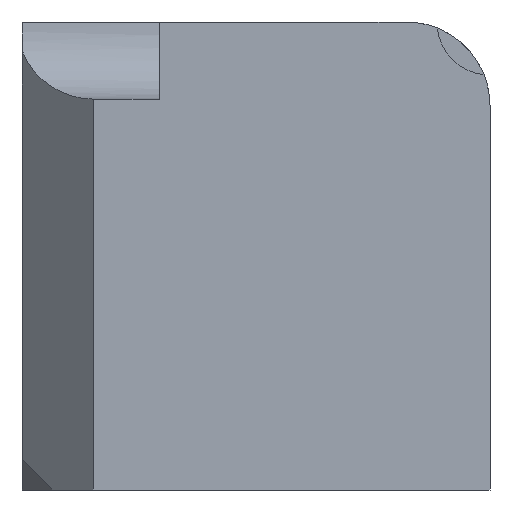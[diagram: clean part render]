
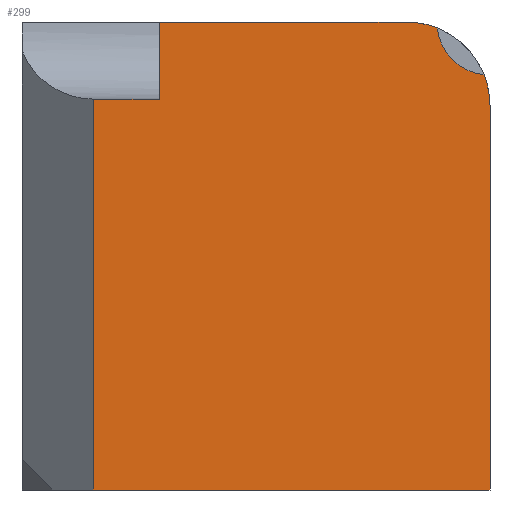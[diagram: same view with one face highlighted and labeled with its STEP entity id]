
A CAD part, left-side view. The second image highlights one B-rep face of the part: STEP entity #299.
In plain terms, the highlighted planar face has unit normal (-1, 0, 0).
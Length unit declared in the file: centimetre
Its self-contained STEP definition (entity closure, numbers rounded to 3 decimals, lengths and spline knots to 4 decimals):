
#13 = CARTESIAN_POINT ( 'NONE',  ( 0., 706.4611, 835.2337 ) ) ;
#60 = DIRECTION ( 'NONE',  ( -1., 0., 0. ) ) ;
#72 = VERTEX_POINT ( 'NONE', #228 ) ;
#91 = VECTOR ( 'NONE', #431, 100. ) ;
#95 = PLANE ( 'NONE',  #670 ) ;
#118 = CARTESIAN_POINT ( 'NONE',  ( 0., 1000., 0. ) ) ;
#134 = LINE ( 'NONE', #13, #91 ) ;
#143 = VECTOR ( 'NONE', #147, 100. ) ;
#145 = EDGE_CURVE ( 'NONE', #478, #197, #381, .T. ) ;
#147 = DIRECTION ( 'NONE',  ( 0., 0., -1. ) ) ;
#150 = VERTEX_POINT ( 'NONE', #268 ) ;
#151 = AXIS2_PLACEMENT_3D ( 'NONE', #284, #400, #409 ) ;
#155 = CARTESIAN_POINT ( 'NONE',  ( 0., 0., 1000. ) ) ;
#165 = AXIS2_PLACEMENT_3D ( 'NONE', #472, #60, #691 ) ;
#173 = LINE ( 'NONE', #529, #321 ) ;
#190 = ORIENTED_EDGE ( 'NONE', *, *, #658, .F. ) ;
#193 = CIRCLE ( 'NONE', #165, 113.6214 ) ;
#195 = VERTEX_POINT ( 'NONE', #263 ) ;
#197 = VERTEX_POINT ( 'NONE', #498 ) ;
#208 = EDGE_CURVE ( 'NONE', #195, #150, #320, .T. ) ;
#209 = DIRECTION ( 'NONE',  ( 0., 0., -1. ) ) ;
#221 = DIRECTION ( 'NONE',  ( 1., 0., 0. ) ) ;
#228 = CARTESIAN_POINT ( 'NONE',  ( 0., 706.4611, 1000. ) ) ;
#238 = EDGE_LOOP ( 'NONE', ( #615, #659, #500, #190, #716, #398, #621, #422, #647 ) ) ;
#239 = DIRECTION ( 'NONE',  ( 0., -1., 0. ) ) ;
#240 = EDGE_CURVE ( 'NONE', #371, #478, #134, .T. ) ;
#243 = LINE ( 'NONE', #583, #607 ) ;
#263 = CARTESIAN_POINT ( 'NONE',  ( 0., 0., 820.6837 ) ) ;
#268 = CARTESIAN_POINT ( 'NONE',  ( 0., 12.7519, 887.0964 ) ) ;
#277 = CARTESIAN_POINT ( 'NONE',  ( 0., 1000., 1000. ) ) ;
#284 = CARTESIAN_POINT ( 'NONE',  ( 0., 179.3163, 820.6837 ) ) ;
#299 = ADVANCED_FACE ( 'NONE', ( #362 ), #95, .F. ) ;
#320 = CIRCLE ( 'NONE', #403, 179.3163 ) ;
#321 = VECTOR ( 'NONE', #239, 100. ) ;
#322 = EDGE_CURVE ( 'NONE', #195, #562, #675, .T. ) ;
#331 = VECTOR ( 'NONE', #458, 100. ) ;
#356 = LINE ( 'NONE', #118, #661 ) ;
#362 = FACE_OUTER_BOUND ( 'NONE', #238, .T. ) ;
#371 = VERTEX_POINT ( 'NONE', #519 ) ;
#380 = DIRECTION ( 'NONE',  ( -1., 0., 0. ) ) ;
#381 = LINE ( 'NONE', #668, #143 ) ;
#386 = CIRCLE ( 'NONE', #151, 179.3163 ) ;
#398 = ORIENTED_EDGE ( 'NONE', *, *, #240, .T. ) ;
#400 = DIRECTION ( 'NONE',  ( -1., 0., 0. ) ) ;
#403 = AXIS2_PLACEMENT_3D ( 'NONE', #726, #380, #209 ) ;
#409 = DIRECTION ( 'NONE',  ( 0., 0., -1. ) ) ;
#422 = ORIENTED_EDGE ( 'NONE', *, *, #653, .T. ) ;
#431 = DIRECTION ( 'NONE',  ( 0., 1., 0. ) ) ;
#458 = DIRECTION ( 'NONE',  ( 0., 0., -1. ) ) ;
#472 = CARTESIAN_POINT ( 'NONE',  ( 0., 0., 1000. ) ) ;
#478 = VERTEX_POINT ( 'NONE', #569 ) ;
#479 = DIRECTION ( 'NONE',  ( 0., 0., 1. ) ) ;
#498 = CARTESIAN_POINT ( 'NONE',  ( 0., 847.2907, 0. ) ) ;
#500 = ORIENTED_EDGE ( 'NONE', *, *, #709, .T. ) ;
#519 = CARTESIAN_POINT ( 'NONE',  ( 0., 706.4611, 835.2337 ) ) ;
#529 = CARTESIAN_POINT ( 'NONE',  ( 0., 1000., 1000. ) ) ;
#552 = EDGE_CURVE ( 'NONE', #371, #72, #243, .T. ) ;
#553 = VERTEX_POINT ( 'NONE', #750 ) ;
#562 = VERTEX_POINT ( 'NONE', #700 ) ;
#563 = DIRECTION ( 'NONE',  ( 0., 0., -1. ) ) ;
#569 = CARTESIAN_POINT ( 'NONE',  ( 0., 847.2907, 835.2337 ) ) ;
#583 = CARTESIAN_POINT ( 'NONE',  ( 0., 706.4611, 1000. ) ) ;
#607 = VECTOR ( 'NONE', #479, 100. ) ;
#615 = ORIENTED_EDGE ( 'NONE', *, *, #208, .T. ) ;
#621 = ORIENTED_EDGE ( 'NONE', *, *, #145, .T. ) ;
#635 = DIRECTION ( 'NONE',  ( 0., -1., 0. ) ) ;
#640 = EDGE_CURVE ( 'NONE', #676, #150, #193, .T. ) ;
#647 = ORIENTED_EDGE ( 'NONE', *, *, #322, .F. ) ;
#653 = EDGE_CURVE ( 'NONE', #197, #562, #356, .T. ) ;
#658 = EDGE_CURVE ( 'NONE', #72, #553, #173, .T. ) ;
#659 = ORIENTED_EDGE ( 'NONE', *, *, #640, .F. ) ;
#661 = VECTOR ( 'NONE', #635, 100. ) ;
#668 = CARTESIAN_POINT ( 'NONE',  ( 0., 847.2907, 1000. ) ) ;
#670 = AXIS2_PLACEMENT_3D ( 'NONE', #277, #221, #563 ) ;
#675 = LINE ( 'NONE', #155, #331 ) ;
#676 = VERTEX_POINT ( 'NONE', #738 ) ;
#691 = DIRECTION ( 'NONE',  ( 0., 0., 1. ) ) ;
#700 = CARTESIAN_POINT ( 'NONE',  ( 0., 0., 0. ) ) ;
#709 = EDGE_CURVE ( 'NONE', #676, #553, #386, .T. ) ;
#716 = ORIENTED_EDGE ( 'NONE', *, *, #552, .F. ) ;
#726 = CARTESIAN_POINT ( 'NONE',  ( 0., 179.3163, 820.6837 ) ) ;
#738 = CARTESIAN_POINT ( 'NONE',  ( 0., 112.9036, 987.2481 ) ) ;
#750 = CARTESIAN_POINT ( 'NONE',  ( 0., 179.3163, 1000. ) ) ;
